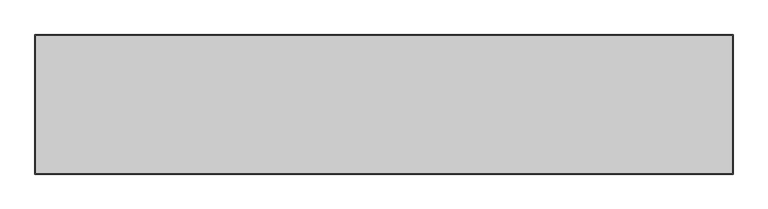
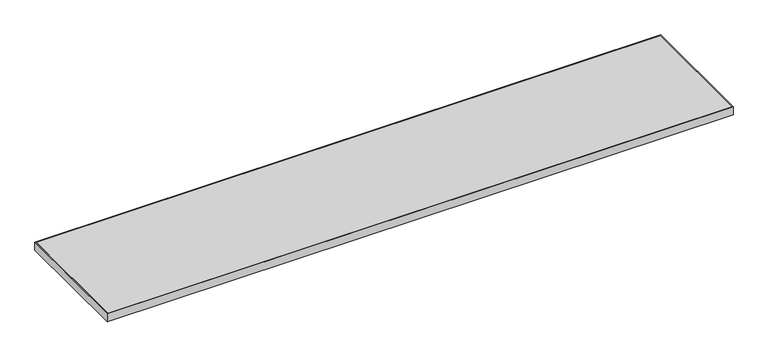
"""IFC4 building model written with IfcOpenShell, lengths in millimetres: furniture geometry, Steelcase - Universal Storage - Square Edge Top - Flush Front - Laminate : Common Top - 18D x 90W."""

from ifc_helpers import new_model, si_unit, frame, origin, place, context, project, spatial, polyline, outline, extrude, source, transform, mapped, element, save


def furniture_cfa1c94b(model_context):
    return source(origin(), model_context, "Body", "SweptSolid", [
        extrude(outline(polyline([(2282.9520001, -3.0479999), (2282.9520001, -454.1520001), (3.0479999, -454.1520001), (3.0479999, -3.0479999), (2282.9520001, -3.0479999)])), frame((0.0, 0.0, 680.72), z_axis=(0.0, 0.0, 1.0), x_axis=(1.0, 0.0, 0.0)), (0.0, 0.0, 1.0), 30.48),
        extrude(outline(polyline([(2286.0, 0.0), (2286.0, -457.2), (0.0, -457.2), (0.0, 0.0), (2286.0, 0.0)]), holes=[polyline([(2282.9520001, -3.0479999), (3.0479999, -3.0479999), (3.0479999, -454.1520001), (2282.9520001, -454.1520001), (2282.9520001, -3.0479999)])]), frame((0.0, 0.0, 680.72), z_axis=(0.0, 0.0, 1.0), x_axis=(1.0, 0.0, 0.0)), (0.0, 0.0, 1.0), 30.48),
    ])


if __name__ == "__main__":
    model = new_model("IFC4")
    model_context = context("Model", 3, world=origin())
    ifc_project = project(units=[si_unit("LENGTHUNIT", "METRE", prefix="MILLI")], contexts=[model_context])
    site = spatial("IfcSite", under=ifc_project)
    building = spatial("IfcBuilding", under=site)
    placement = place(None, origin())
    furniture_shape = furniture_cfa1c94b(model_context)
    element("IfcFurniture", 1, ObjectType="Steelcase - Universal Storage - Square Edge Top - Flush Front - Laminate : Common Top - 18D x 90W", at=placement, inside=building, context=model_context, shape_type="MappedRepresentation", body=[
        mapped(furniture_shape, transform((0.0, 0.0, 0.0), x_axis=(1.0, 0.0, 0.0), y_axis=(0.0, 1.0, 0.0), z_axis=(0.0, 0.0, 1.0))),
    ])
    save(model, "model.ifc")
